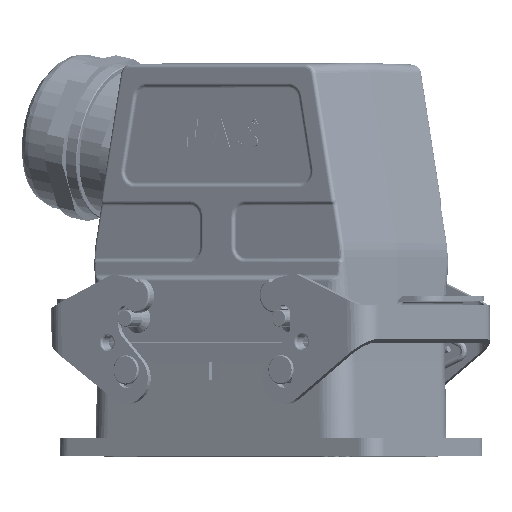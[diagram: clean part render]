
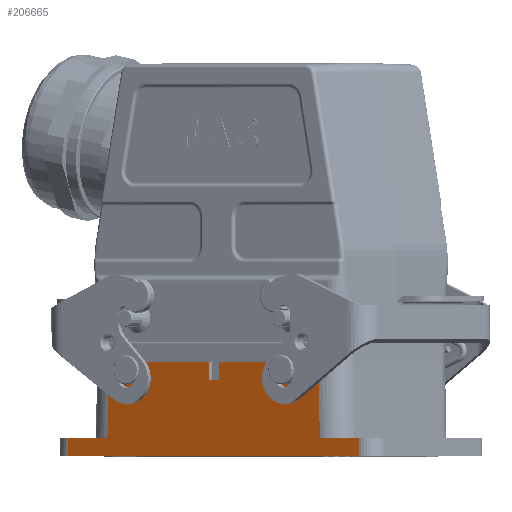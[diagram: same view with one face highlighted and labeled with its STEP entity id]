
A CAD part, top view. The second image highlights one B-rep face of the part: STEP entity #206665.
In plain terms, the highlighted planar face has unit normal (-0.547, 0.009, 0.837) as drawn and (0, 1, 0.009) by its records, which use the part's own axes.
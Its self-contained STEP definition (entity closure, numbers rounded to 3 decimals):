
#2890 = CARTESIAN_POINT ( 'NONE',  ( -47.25, 28.7, 0. ) ) ;
#13457 = VECTOR ( 'NONE', #106989, 1000. ) ;
#14280 = VERTEX_POINT ( 'NONE', #30193 ) ;
#27425 = DIRECTION ( 'NONE',  ( -0.017, -0.009, 1. ) ) ;
#29367 = VERTEX_POINT ( 'NONE', #259051 ) ;
#30193 = CARTESIAN_POINT ( 'NONE',  ( -47.163, 28.656, 5. ) ) ;
#38773 = DIRECTION ( 'NONE',  ( 0.052, -0.009, 0.999 ) ) ;
#39279 = DIRECTION ( 'NONE',  ( 1., 0., 0. ) ) ;
#41439 = CARTESIAN_POINT ( 'NONE',  ( 1.5, 28.519, 20.7 ) ) ;
#44486 = EDGE_CURVE ( 'NONE', #136628, #136859, #185796, .T. ) ;
#53934 = CARTESIAN_POINT ( 'NONE',  ( 1.762, 28.476, 25.7 ) ) ;
#54282 = EDGE_CURVE ( 'NONE', #143935, #200823, #248873, .T. ) ;
#59071 = ORIENTED_EDGE ( 'NONE', *, *, #79107, .T. ) ;
#60701 = DIRECTION ( 'NONE',  ( 0.017, -0.009, 1. ) ) ;
#63725 = LINE ( 'NONE', #67695, #146308 ) ;
#64243 = CARTESIAN_POINT ( 'NONE',  ( -34.5, 28.656, 5. ) ) ;
#65583 = LINE ( 'NONE', #252447, #208137 ) ;
#67695 = CARTESIAN_POINT ( 'NONE',  ( 34.56, 28.687, 1.539 ) ) ;
#69039 = CARTESIAN_POINT ( 'NONE',  ( -1.762, 28.476, 25.7 ) ) ;
#70004 = ORIENTED_EDGE ( 'NONE', *, *, #243557, .T. ) ;
#79107 = EDGE_CURVE ( 'NONE', #153468, #14280, #228783, .T. ) ;
#82012 = VERTEX_POINT ( 'NONE', #135800 ) ;
#82801 = CARTESIAN_POINT ( 'NONE',  ( -1.5, 28.519, 20.7 ) ) ;
#86459 = CARTESIAN_POINT ( 'NONE',  ( 1.5, 28.519, 20.7 ) ) ;
#86692 = VECTOR ( 'NONE', #257914, 1000. ) ;
#88924 = EDGE_CURVE ( 'NONE', #136859, #236736, #206795, .T. ) ;
#89780 = CARTESIAN_POINT ( 'NONE',  ( 47.163, 28.656, 5. ) ) ;
#90671 = ORIENTED_EDGE ( 'NONE', *, *, #196524, .F. ) ;
#91181 = DIRECTION ( 'NONE',  ( -1., 0., 0. ) ) ;
#97896 = PLANE ( 'NONE',  #238624 ) ;
#101685 = ORIENTED_EDGE ( 'NONE', *, *, #44486, .T. ) ;
#106325 = DIRECTION ( 'NONE',  ( 0.052, 0.009, -0.999 ) ) ;
#106989 = DIRECTION ( 'NONE',  ( -1., 0., 0. ) ) ;
#108974 = CARTESIAN_POINT ( 'NONE',  ( -1.762, 28.476, 25.7 ) ) ;
#109273 = VERTEX_POINT ( 'NONE', #69039 ) ;
#111615 = EDGE_CURVE ( 'NONE', #109273, #136628, #208438, .T. ) ;
#121005 = CARTESIAN_POINT ( 'NONE',  ( 47.163, 28.656, 5. ) ) ;
#124907 = CARTESIAN_POINT ( 'NONE',  ( -52.25, 28.656, 5. ) ) ;
#125791 = CARTESIAN_POINT ( 'NONE',  ( -41.5, 28.476, 25.7 ) ) ;
#127821 = EDGE_LOOP ( 'NONE', ( #193357, #207693, #193552, #208591, #101685, #230966, #197572, #181796, #90671, #70004, #172117, #59071 ) ) ;
#135577 = VECTOR ( 'NONE', #224512, 1000. ) ;
#135800 = CARTESIAN_POINT ( 'NONE',  ( 34.5, 28.656, 5. ) ) ;
#136628 = VERTEX_POINT ( 'NONE', #82801 ) ;
#136859 = VERTEX_POINT ( 'NONE', #86459 ) ;
#138400 = VECTOR ( 'NONE', #39279, 1000. ) ;
#142957 = VECTOR ( 'NONE', #60701, 1000. ) ;
#143935 = VERTEX_POINT ( 'NONE', #64243 ) ;
#145087 = LINE ( 'NONE', #124907, #198651 ) ;
#146308 = VECTOR ( 'NONE', #27425, 1000. ) ;
#147727 = VECTOR ( 'NONE', #106325, 1000. ) ;
#153107 = CARTESIAN_POINT ( 'NONE',  ( -52.25, 28.7, 0.024 ) ) ;
#153468 = VERTEX_POINT ( 'NONE', #163319 ) ;
#154492 = LINE ( 'NONE', #259249, #86692 ) ;
#157805 = VECTOR ( 'NONE', #242920, 1000. ) ;
#158732 = EDGE_CURVE ( 'NONE', #185600, #153468, #65583, .T. ) ;
#163319 = CARTESIAN_POINT ( 'NONE',  ( -47.25, 28.7, 0. ) ) ;
#165648 = CARTESIAN_POINT ( 'NONE',  ( -52.25, 28.519, 20.7 ) ) ;
#165829 = EDGE_CURVE ( 'NONE', #109273, #200823, #224051, .T. ) ;
#169805 = VECTOR ( 'NONE', #38773, 1000. ) ;
#172117 = ORIENTED_EDGE ( 'NONE', *, *, #158732, .T. ) ;
#172348 = VERTEX_POINT ( 'NONE', #89780 ) ;
#175899 = DIRECTION ( 'NONE',  ( 1., 0., 0. ) ) ;
#181796 = ORIENTED_EDGE ( 'NONE', *, *, #247583, .F. ) ;
#185600 = VERTEX_POINT ( 'NONE', #235884 ) ;
#185796 = LINE ( 'NONE', #165648, #138400 ) ;
#193357 = ORIENTED_EDGE ( 'NONE', *, *, #221544, .F. ) ;
#193552 = ORIENTED_EDGE ( 'NONE', *, *, #165829, .F. ) ;
#196095 = DIRECTION ( 'NONE',  ( 0., 1., 0.009 ) ) ;
#196524 = EDGE_CURVE ( 'NONE', #172348, #82012, #145087, .T. ) ;
#197572 = ORIENTED_EDGE ( 'NONE', *, *, #218668, .F. ) ;
#198651 = VECTOR ( 'NONE', #206920, 1000. ) ;
#198685 = CARTESIAN_POINT ( 'NONE',  ( -34.139, 28.476, 25.7 ) ) ;
#200823 = VERTEX_POINT ( 'NONE', #198685 ) ;
#206665 = ADVANCED_FACE ( 'NONE', ( #214890 ), #97896, .T. ) ;
#206795 = LINE ( 'NONE', #41439, #169805 ) ;
#206920 = DIRECTION ( 'NONE',  ( -1., 0., 0. ) ) ;
#207693 = ORIENTED_EDGE ( 'NONE', *, *, #54282, .T. ) ;
#208137 = VECTOR ( 'NONE', #91181, 1000. ) ;
#208438 = LINE ( 'NONE', #108974, #147727 ) ;
#208591 = ORIENTED_EDGE ( 'NONE', *, *, #111615, .T. ) ;
#213714 = VECTOR ( 'NONE', #250219, 1000. ) ;
#214890 = FACE_OUTER_BOUND ( 'NONE', #127821, .T. ) ;
#218668 = EDGE_CURVE ( 'NONE', #29367, #236736, #225444, .T. ) ;
#221544 = EDGE_CURVE ( 'NONE', #143935, #14280, #154492, .T. ) ;
#224051 = LINE ( 'NONE', #125791, #13457 ) ;
#224512 = DIRECTION ( 'NONE',  ( 0.017, 0.009, -1. ) ) ;
#225444 = LINE ( 'NONE', #241643, #157805 ) ;
#228783 = LINE ( 'NONE', #2890, #213714 ) ;
#230966 = ORIENTED_EDGE ( 'NONE', *, *, #88924, .T. ) ;
#235884 = CARTESIAN_POINT ( 'NONE',  ( 47.25, 28.7, 0. ) ) ;
#236736 = VERTEX_POINT ( 'NONE', #53934 ) ;
#238624 = AXIS2_PLACEMENT_3D ( 'NONE', #153107, #196095, #175899 ) ;
#241643 = CARTESIAN_POINT ( 'NONE',  ( -41.5, 28.476, 25.7 ) ) ;
#242920 = DIRECTION ( 'NONE',  ( -1., 0., 0. ) ) ;
#243557 = EDGE_CURVE ( 'NONE', #172348, #185600, #266142, .T. ) ;
#247583 = EDGE_CURVE ( 'NONE', #82012, #29367, #63725, .T. ) ;
#248873 = LINE ( 'NONE', #265137, #142957 ) ;
#250219 = DIRECTION ( 'NONE',  ( 0.017, -0.009, 1. ) ) ;
#252447 = CARTESIAN_POINT ( 'NONE',  ( -52.25, 28.7, 0. ) ) ;
#257914 = DIRECTION ( 'NONE',  ( -1., 0., 0. ) ) ;
#259051 = CARTESIAN_POINT ( 'NONE',  ( 34.139, 28.476, 25.7 ) ) ;
#259249 = CARTESIAN_POINT ( 'NONE',  ( 52.25, 28.656, 5. ) ) ;
#265137 = CARTESIAN_POINT ( 'NONE',  ( -34.5, 28.656, 5. ) ) ;
#266142 = LINE ( 'NONE', #121005, #135577 ) ;
